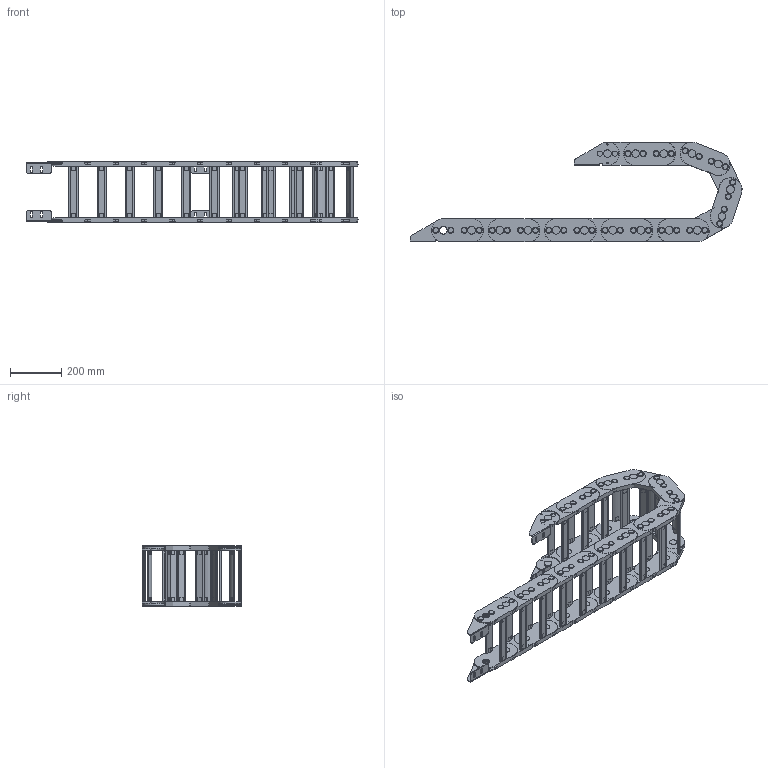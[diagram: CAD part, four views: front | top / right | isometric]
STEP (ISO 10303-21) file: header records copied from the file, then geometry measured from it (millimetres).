
FILE_DESCRIPTION((''),'2;1');
FILE_NAME('GD-65-R150_ASM','2022-07-07T09:31:54',('admin'),(''),'CREO PARAMETRIC BY PTC INC, 2021164','CREO PARAMETRIC BY PTC INC, 2021164','');
FILE_SCHEMA(('CONFIG_CONTROL_DESIGN','GEOMETRIC_VALIDATION_PROPERTIES_MIM'));
Length unit declared in the file: millimetre
Products named in the file (5): 65-R150; 65-R150-1; TLT-1; TLT-2; GD-65-R150_ASM
Assembly tree (18 placements, depth 2):
  GD-65-R150_ASM
    65-R150  x8
    65-R150-1  x8
    TLT-1
    TLT-2
Bounding box: 1293.94 x 388.57 x 240.5 mm (x, y, z)
Volume: 8036048.3 mm3; surface area: 2422630.9 mm2
Topology: 68 solids, 68 shells, 2092 faces, 5478 edges, 3722 vertices
Faces by surface type: cylinder 1004, plane 928, cone 160
Entity records: 16167 total; most frequent: DIRECTION 2482, CARTESIAN_POINT 2384, ORIENTED_EDGE 2220, EDGE_CURVE 1110, AXIS2_PLACEMENT_3D 949, VERTEX_POINT 754, PRESENTATION_STYLE_ASSIGNMENT 634, STYLED_ITEM 633
